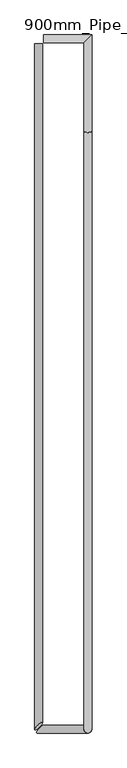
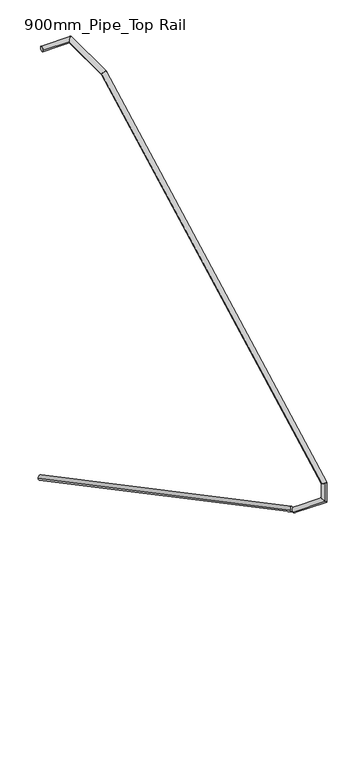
"""IFC4 building model written with IfcOpenShell, lengths in millimetres: railing geometry, 900mm_Pipe_Top Rail."""

import ifcopenshell
import ifcopenshell.guid

model = None  # the IFC model being written
_history = None  # IfcOwnerHistory: only IFC2X3 demands one
_inside = {}  # id of a spatial element -> (the spatial element, [elements in it])
_under = {}  # id of a project, library or spatial element -> (it, [spatial elements below it])
_declared = {}  # id of a project -> (the project, [libraries it declares])
_typed = {}  # id of a type object -> (the type object, [elements of that type])
_made_of = {}  # id of a material, layer set ... -> (it, [elements and type objects made of it])


def new_model(schema):
    """Start an empty IFC model of exactly this schema.

    Asked for "IFC4X3", IfcOpenShell would pick the latest addendum, in which some entities
    have other attributes; the version numbers below select the first issue.
    IFC2X3 requires an IfcOwnerHistory on every rooted entity: one is made here for all.
    """
    global model, _history
    if schema == "IFC4X3":
        model = ifcopenshell.file(schema_version=(4, 3, 0, 0))
    else:
        model = ifcopenshell.file(schema=schema)
    _inside.clear()
    _under.clear()
    _declared.clear()
    _typed.clear()
    _made_of.clear()
    _history = None
    if model.schema == "IFC2X3":
        org = make("IfcOrganization", Name="unknown")
        user = make(
            "IfcPersonAndOrganization",
            ThePerson=make("IfcPerson", FamilyName="unknown"),
            TheOrganization=org,
        )
        app = make(
            "IfcApplication",
            ApplicationDeveloper=org,
            Version="unknown",
            ApplicationFullName="unknown",
            ApplicationIdentifier="unknown",
        )
        _history = make(
            "IfcOwnerHistory",
            OwningUser=user,
            OwningApplication=app,
            ChangeAction="ADDED",
            CreationDate=0,
        )
    return model


def make(cls, **values):
    """One entity of the class cls with the attributes given. An attribute that is None is left unset."""
    return model.create_entity(
        cls, **{name: value for name, value in values.items() if value is not None}
    )


def rooted(cls, **values):
    """An entity with a GlobalId (a new one), such as an element, a storey or a relation."""
    return make(cls, GlobalId=ifcopenshell.guid.new(), OwnerHistory=_history, **values)


def si_unit(unit_type, name, prefix=None):
    """IfcSIUnit, for example si_unit("LENGTHUNIT", "METRE", prefix="MILLI")."""
    return make("IfcSIUnit", UnitType=unit_type, Prefix=prefix, Name=name)


def assignment(units):
    """IfcUnitAssignment: the units of a project."""
    return None if units is None else make("IfcUnitAssignment", Units=units)


def point(xyz):
    """IfcCartesianPoint."""
    return None if xyz is None else make("IfcCartesianPoint", Coordinates=xyz)


def direction(xyz):
    """IfcDirection."""
    return None if xyz is None else make("IfcDirection", DirectionRatios=xyz)


def frame(location, z_axis=None, x_axis=None):
    """IfcAxis2Placement3D, a coordinate frame: its origin and axes. An axis left out is left unset."""
    return make(
        "IfcAxis2Placement3D",
        Location=point(location),
        Axis=direction(z_axis),
        RefDirection=direction(x_axis),
    )


def origin():
    """The frame at (0, 0, 0) with its axes left unset."""
    return frame((0.0, 0.0, 0.0))


def place(relative_to, where):
    """IfcLocalPlacement: puts the frame where relative to a parent placement (None: the world)."""
    return make(
        "IfcLocalPlacement", PlacementRelTo=relative_to, RelativePlacement=where
    )


def context(
    kind, dimensions, precision=None, world=None, true_north=None, identifier=None
):
    """IfcGeometricRepresentationContext, for example the 3D "Model" context."""
    return make(
        "IfcGeometricRepresentationContext",
        ContextIdentifier=identifier,
        ContextType=kind,
        CoordinateSpaceDimension=dimensions,
        Precision=precision,
        WorldCoordinateSystem=world,
        TrueNorth=true_north,
    )


def project(units=None, contexts=None):
    """IfcProject with its units and contexts."""
    return rooted(
        "IfcProject",
        Name="project",
        RepresentationContexts=contexts,
        UnitsInContext=assignment(units),
    )


def spatial(cls, under=None, at=None, **own):
    """A site, building, storey or space (cls), placed at a placement, below another one or the project."""
    s = rooted(cls, ObjectPlacement=at, **own)
    if under is not None:
        _under.setdefault(under.id(), (under, []))[1].append(s)
    return s


def circle_curve(where, radius):
    """IfcCircle in the frame where."""
    return make("IfcCircle", Position=where, Radius=radius)


def ellipse_curve(where, semi_axis1, semi_axis2):
    """IfcEllipse in the frame where."""
    return make(
        "IfcEllipse", Position=where, SemiAxis1=semi_axis1, SemiAxis2=semi_axis2
    )


def shape(context_of_items, identifier, shape_type, items):
    """IfcShapeRepresentation: the items that make up one representation, for example the "Body"."""
    return make(
        "IfcShapeRepresentation",
        ContextOfItems=context_of_items,
        RepresentationIdentifier=identifier,
        RepresentationType=shape_type,
        Items=items,
    )


def source(mapping_origin, context_of_items, identifier, shape_type, items):
    """IfcRepresentationMap: a shape defined once, which mapped items show again and again."""
    return make(
        "IfcRepresentationMap",
        MappingOrigin=mapping_origin,
        MappedRepresentation=shape(context_of_items, identifier, shape_type, items),
    )


def transform(
    local_origin,
    x_axis=None,
    y_axis=None,
    z_axis=None,
    scale=None,
    scale2=None,
    scale3=None,
    uniform=True,
):
    """IfcCartesianTransformationOperator3D, or its non-uniform kind. x_axis, y_axis, z_axis: its Axis1, 2, 3."""
    if uniform:
        return make(
            "IfcCartesianTransformationOperator3D",
            Axis1=direction(x_axis),
            Axis2=direction(y_axis),
            LocalOrigin=point(local_origin),
            Scale=scale,
            Axis3=direction(z_axis),
        )
    return make(
        "IfcCartesianTransformationOperator3DnonUniform",
        Axis1=direction(x_axis),
        Axis2=direction(y_axis),
        LocalOrigin=point(local_origin),
        Scale=scale,
        Axis3=direction(z_axis),
        Scale2=scale2,
        Scale3=scale3,
    )


def mapped(mapping_source, mapping_target):
    """IfcMappedItem: shows the shape of a source again, moved by a transform."""
    return make(
        "IfcMappedItem", MappingSource=mapping_source, MappingTarget=mapping_target
    )


def made_of(thing, what):
    """Note that an element or type object is made of a material, layer set ...; save() writes the relation."""
    if what is not None:
        _made_of.setdefault(what.id(), (what, []))[1].append(thing)
    return thing


def element(
    cls,
    number,
    at=None,
    inside=None,
    cuts=None,
    type_object=None,
    material=None,
    context=None,
    identifier="Body",
    shape_type=None,
    held_by="IfcProductDefinitionShape",
    body=None,
    shapes=None,
    **own,
):
    """One element of the class cls, such as IfcWall. Its Tag is "e" and its number.

    at: its placement. inside: the storey or other place that contains it. cuts: it is an
    opening in that element (IfcRelVoidsElement). A single representation is given by context,
    identifier, shape_type and body (its items); several are given by shapes. held_by: the class
    of the entity that holds the representations. save() writes the other relations.
    """
    e = rooted(cls, Tag="e%d" % number, ObjectPlacement=at, **own)
    if body is not None:
        shapes = [shape(context, identifier, shape_type, body)]
    if shapes is not None:
        e.Representation = make(held_by, Representations=shapes)
    if inside is not None:
        _inside.setdefault(inside.id(), (inside, []))[1].append(e)
    if cuts is not None:
        rooted(
            "IfcRelVoidsElement", RelatingBuildingElement=cuts, RelatedOpeningElement=e
        )
    if type_object is not None:
        _typed.setdefault(type_object.id(), (type_object, []))[1].append(e)
    return made_of(e, material)


def aggregate(whole, parts):
    """IfcRelAggregates: a whole, such as a stair, and the parts it consists of."""
    return rooted("IfcRelAggregates", RelatingObject=whole, RelatedObjects=parts)


def save(model, path):
    """Write the relations noted so far, then the file.

    IfcRelAggregates (storeys below a building ...), IfcRelContainedInSpatialStructure (elements
    in a storey), IfcRelDefinesByType, IfcRelAssociatesMaterial and IfcRelDeclares: one each for
    every whole, place, type object, material and project.
    """
    for whole, parts in _under.values():
        aggregate(whole, parts)
    for where, things in _inside.values():
        rooted(
            "IfcRelContainedInSpatialStructure",
            RelatedElements=things,
            RelatingStructure=where,
        )
    for kind, things in _typed.values():
        rooted("IfcRelDefinesByType", RelatedObjects=things, RelatingType=kind)
    for what, things in _made_of.values():
        rooted("IfcRelAssociatesMaterial", RelatedObjects=things, RelatingMaterial=what)
    for by, libraries in _declared.values():
        rooted("IfcRelDeclares", RelatingContext=by, RelatedDefinitions=libraries)
    model.write(path)


def plane_surface(at):
    """IfcPlane: the flat surface through the origin of the frame at, square to its z axis."""
    return make("IfcPlane", Position=at)


def cylinder_surface(at, radius):
    """IfcCylindricalSurface: all points at the distance radius from the z axis of the frame at."""
    return make("IfcCylindricalSurface", Position=at, Radius=radius)


def advanced_brep(points, edges, surfaces, faces):
    """IfcAdvancedBrep: a solid bounded by faces that lie on surfaces and meet in shared edges.

    An edge is (start, end): straight between two places in points (the first is 0);
    or (start, end, curve); or (start, end, curve, False) where it runs against its curve.
    A face is (place in surfaces, loops), or (place, loops, False) where it looks against
    its surface's normal. A loop lists edges by number (the first is 1), with a minus sign
    where the edge is run from its end to its start. The first loop is the outer one.
    """
    corners = [point(p) for p in points]
    vertices = [make("IfcVertexPoint", VertexGeometry=c) for c in corners]
    made = []
    for start, end, *more in edges:
        made.append(
            make(
                "IfcEdgeCurve",
                EdgeStart=vertices[start],
                EdgeEnd=vertices[end],
                EdgeGeometry=more[0] if more else make("IfcPolyline", Points=[corners[start], corners[end]]),
                SameSense=more[1] if len(more) > 1 else True,
            )
        )
    hull = []
    for where, loops, *sense in faces:
        bounds = []
        for j, loop in enumerate(loops):
            ring = [make("IfcOrientedEdge", EdgeElement=made[abs(k) - 1], Orientation=k > 0) for k in loop]
            bounds.append(
                make(
                    "IfcFaceOuterBound" if j == 0 else "IfcFaceBound",
                    Bound=make("IfcEdgeLoop", EdgeList=ring),
                    Orientation=True,
                )
            )
        hull.append(make("IfcAdvancedFace", Bounds=bounds, FaceSurface=surfaces[where], SameSense=sense[0] if sense else True))
    return make("IfcAdvancedBrep", Outer=make("IfcClosedShell", CfsFaces=hull))


def railing_900mm_pipe_top_rail_f8b790fc(model_context):
    return source(origin(), model_context, "Body", "AdvancedBrep", [
        advanced_brep(
        [(-12235.3216429, 12414.8960687, 2906.7976593), (-12195.3216429, 12414.8960687, 2906.7976593), (-12235.3216429, 8937.8618282, 4747.9700762), (-12195.3216429, 8973.2117069, 4729.2514737)],
        [
            (0, 1, ellipse_curve(frame((-12215.3216429, 12414.8960687, 2906.7976593), z_axis=(0.0, 1.0, 0.0), x_axis=(0.0, 0.0, -0.9999999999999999)), 22.6309122, 20.0)),
            (1, 0, ellipse_curve(frame((-12215.3216429, 12414.8960687, 2906.7976593), z_axis=(0.0, 1.0, 0.0), x_axis=(0.0, 0.0, -0.9999999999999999)), 22.6309122, 20.0)),
            (2, 3, ellipse_curve(frame((-12215.3216429, 8955.5367675, 4738.6107749), z_axis=(0.7071067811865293, -0.6249034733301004, 0.3309012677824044), x_axis=(0.707106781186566, 0.6249034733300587, -0.3309012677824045)), 28.2842712, 20.0)),
            (3, 2, ellipse_curve(frame((-12215.3216429, 8955.5367675, 4738.6107749), z_axis=(0.7071067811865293, -0.6249034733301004, 0.3309012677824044), x_axis=(0.707106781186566, 0.6249034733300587, -0.3309012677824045)), 28.2842712, 20.0)),
            (0, 2),
            (3, 1),
        ],
        [
            plane_surface(frame((-12215.3216429, 12414.8960687, 2929.4285714), z_axis=(0.0, 1.0, 0.0), x_axis=(0.0, 0.0, -1.0))),
            plane_surface(frame((-12215.3216429, 8964.8960687, 4756.2857143), z_axis=(0.7071067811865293, -0.6249034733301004, 0.3309012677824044), x_axis=(0.707106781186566, 0.624903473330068, -0.33090126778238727))),
            cylinder_surface(frame((-12215.3216429, 12405.5367675, 2911.7536321), z_axis=(0.0, 0.8837469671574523, -0.4679650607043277), x_axis=(1.0, 0.0, 0.0)), 20.0),
        ],
        [
            (0, [[1, 2]]),
            (1, [[3, 4]]),
            (2, [[-1, 5, -4, 6]]),
            (2, [[-2, -6, -3, -5]]),
        ],
    ),
        advanced_brep(
        [(-12223.6372811, 8919.882711, 4736.2857143), (-12188.2874024, 8959.882711, 4736.2857143), (-11965.2146087, 8919.882711, 4736.2857143), (-11965.2146087, 8959.882711, 4736.2857143)],
        [
            (0, 1, ellipse_curve(frame((-12205.9623417, 8939.882711, 4736.2857143), z_axis=(-0.7071067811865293, 0.6249034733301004, -0.3309012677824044), x_axis=(-0.7071067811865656, -0.6249034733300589, 0.33090126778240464)), 28.2842712, 20.0)),
            (1, 0, ellipse_curve(frame((-12205.9623417, 8939.882711, 4736.2857143), z_axis=(-0.7071067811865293, 0.6249034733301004, -0.3309012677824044), x_axis=(-0.7071067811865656, -0.6249034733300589, 0.33090126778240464)), 28.2842712, 20.0)),
            (2, 3, ellipse_curve(frame((-11965.2146087, 8939.882711, 4736.2857143), z_axis=(0.7071067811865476, 0.0, 0.7071067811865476), x_axis=(-0.7071067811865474, 0.0, 0.7071067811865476)), 28.2842712, 20.0)),
            (3, 2, ellipse_curve(frame((-11965.2146087, 8939.882711, 4736.2857143), z_axis=(0.7071067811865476, 0.0, 0.7071067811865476), x_axis=(-0.7071067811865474, 0.0, 0.7071067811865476)), 28.2842712, 20.0)),
            (0, 2),
            (3, 1),
        ],
        [
            plane_surface(frame((-12215.3216429, 8939.882711, 4756.2857143), z_axis=(-0.7071067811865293, 0.6249034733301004, -0.3309012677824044), x_axis=(0.707106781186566, 0.624903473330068, -0.33090126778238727))),
            plane_surface(frame((-11985.2146087, 8939.882711, 4756.2857143), z_axis=(0.7071067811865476, 0.0, 0.7071067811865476), x_axis=(0.7071067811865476, 0.0, -0.7071067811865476))),
            cylinder_surface(frame((-12215.3216429, 8939.882711, 4736.2857143), z_axis=(-1.0, 0.0, 0.0), x_axis=(0.0, 1.0, 0.0)), 20.0),
        ],
        [
            (0, [[1, 2]]),
            (1, [[3, 4]]),
            (2, [[-1, 5, -4, 6]]),
            (2, [[-2, -6, -3, -5]]),
        ],
    ),
        advanced_brep(
        [(-11965.2146087, 8919.882711, 4736.2857143), (-11965.2146087, 8959.882711, 4736.2857143), (-11965.2146087, 8919.882711, 4891.3072125), (-11965.2146087, 8959.882711, 4867.2263405)],
        [
            (0, 1, ellipse_curve(frame((-11965.2146087, 8939.882711, 4736.2857143), z_axis=(-0.7071067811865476, 0.0, -0.7071067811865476), x_axis=(0.7071067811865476, 0.0, -0.7071067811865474)), 28.2842712, 20.0)),
            (1, 0, ellipse_curve(frame((-11965.2146087, 8939.882711, 4736.2857143), z_axis=(-0.7071067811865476, 0.0, -0.7071067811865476), x_axis=(0.7071067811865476, 0.0, -0.7071067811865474)), 28.2842712, 20.0)),
            (2, 3, ellipse_curve(frame((-11965.2146087, 8939.882711, 4879.2667765), z_axis=(0.0, 0.5157688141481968, 0.8567278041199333), x_axis=(0.0, 0.8567278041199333, -0.5157688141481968)), 23.3446375, 20.0)),
            (3, 2, ellipse_curve(frame((-11965.2146087, 8939.882711, 4879.2667765), z_axis=(0.0, 0.5157688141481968, 0.8567278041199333), x_axis=(0.0, 0.8567278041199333, -0.5157688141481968)), 23.3446375, 20.0)),
            (0, 2),
            (3, 1),
        ],
        [
            plane_surface(frame((-11965.2146087, 8939.882711, 4736.2857143), z_axis=(-0.7071067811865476, 0.0, -0.7071067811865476), x_axis=(0.7071067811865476, 0.0, -0.7071067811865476))),
            plane_surface(frame((-11965.2146087, 8939.882711, 4879.2667765), z_axis=(0.0, 0.5157688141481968, 0.8567278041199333), x_axis=(1.0, 0.0, 0.0))),
            cylinder_surface(frame((-11965.2146087, 8939.882711, 4736.2857143), z_axis=(0.0, 0.0, -1.0), x_axis=(0.0, 1.0, 0.0)), 20.0),
        ],
        [
            (0, [[1, 2]]),
            (1, [[3, 4]]),
            (2, [[-1, 5, -4, 6]]),
            (2, [[-2, -6, -3, -5]]),
        ],
    ),
        advanced_brep(
        [(-11945.2146087, 8939.882711, 4879.2667765), (-11985.2146087, 8939.882711, 4879.2667765), (-11945.2146087, 11969.864518, 6483.7142857), (-11985.2146087, 11969.864518, 6483.7142857), (-11945.2146087, 12459.8960687, 6483.7142857), (-11985.2146087, 12419.8960687, 6483.7142857), (-12190.3216429, 12459.8960687, 6483.7142857), (-12190.3216429, 12419.8960687, 6483.7142857)],
        [
            (0, 1, ellipse_curve(frame((-11965.2146087, 8939.882711, 4879.2667765), z_axis=(0.0, -0.5157688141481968, -0.8567278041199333), x_axis=(0.0, -0.8567278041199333, 0.5157688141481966)), 23.3446375, 20.0)),
            (1, 0, ellipse_curve(frame((-11965.2146087, 8939.882711, 4879.2667765), z_axis=(0.0, -0.5157688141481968, -0.8567278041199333), x_axis=(0.0, -0.8567278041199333, 0.5157688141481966)), 23.3446375, 20.0)),
            (0, 2),
            (2, 3, ellipse_curve(frame((-11965.2146087, 11969.864518, 6483.7142857), z_axis=(0.0, -0.9705016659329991, -0.241094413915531), x_axis=(0.0, 0.24109441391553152, -0.970501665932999)), 20.6078987, 20.0)),
            (3, 1),
            (3, 2, ellipse_curve(frame((-11965.2146087, 11969.864518, 6483.7142857), z_axis=(0.0, -0.9705016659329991, -0.241094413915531), x_axis=(0.0, 0.24109441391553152, -0.970501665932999)), 20.6078987, 20.0)),
            (2, 4),
            (4, 5, ellipse_curve(frame((-11965.2146087, 12439.8960687, 6483.7142857), z_axis=(0.7071067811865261, -0.7071067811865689, 0.0), x_axis=(-0.7071067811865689, -0.7071067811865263, 0.0)), 28.2842712, 20.0)),
            (5, 3),
            (5, 4, ellipse_curve(frame((-11965.2146087, 12439.8960687, 6483.7142857), z_axis=(0.7071067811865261, -0.7071067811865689, 0.0), x_axis=(-0.7071067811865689, -0.7071067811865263, 0.0)), 28.2842712, 20.0)),
            (6, 7, circle_curve(frame((-12190.3216429, 12439.8960687, 6483.7142857), z_axis=(-1.0, 0.0, 0.0), x_axis=(0.0, -1.0, 0.0)), 20.0)),
            (7, 6, circle_curve(frame((-12190.3216429, 12439.8960687, 6483.7142857), z_axis=(-1.0, 0.0, 0.0), x_axis=(0.0, -1.0, 0.0)), 20.0)),
            (4, 6),
            (7, 5),
        ],
        [
            plane_surface(frame((-11965.2146087, 8919.882711, 4891.3072125), z_axis=(0.0, -0.5157688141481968, -0.8567278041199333), x_axis=(1.0, 0.0, 0.0))),
            cylinder_surface(frame((-11965.2146087, 8929.2420122, 4873.6322731), z_axis=(0.0, -0.8837469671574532, -0.4679650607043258), x_axis=(-1.0, 0.0, 0.0)), 20.0),
            cylinder_surface(frame((-11965.2146087, 11964.8960687, 6483.7142857), z_axis=(0.0, -1.0, 0.0), x_axis=(-1.0, 0.0, 0.0)), 20.0),
            plane_surface(frame((-12190.3216429, 12439.8960687, 6503.7142857), z_axis=(-1.0, 0.0, 0.0), x_axis=(0.0, -1.0, 0.0))),
            cylinder_surface(frame((-11965.2146087, 12439.8960687, 6483.7142857), z_axis=(1.0, 0.0, 0.0), x_axis=(0.0, -1.0, 0.0)), 20.0),
        ],
        [
            (0, [[1, 2]]),
            (1, [[-1, 3, 4, 5]]),
            (1, [[-2, -5, 6, -3]]),
            (2, [[-4, 7, 8, 9]]),
            (2, [[-6, -9, 10, -7]]),
            (3, [[11, 12]]),
            (4, [[-8, 13, -12, 14]]),
            (4, [[-10, -14, -11, -13]]),
        ],
    ),
    ])


if __name__ == "__main__":
    model = new_model("IFC4")
    model_context = context("Model", 3, world=origin())
    ifc_project = project(units=[si_unit("LENGTHUNIT", "METRE", prefix="MILLI")], contexts=[model_context])
    site = spatial("IfcSite", under=ifc_project)
    building = spatial("IfcBuilding", under=site)
    placement = place(None, origin())
    railing_900mm_pipe_top_rail_shape = railing_900mm_pipe_top_rail_f8b790fc(model_context)
    element("IfcRailing", 1, ObjectType="900mm_Pipe_Top Rail", at=placement, inside=building, context=model_context, shape_type="MappedRepresentation", body=[
        mapped(railing_900mm_pipe_top_rail_shape, transform((0.0, 0.0, 0.0), x_axis=(1.0, 0.0, 0.0), y_axis=(0.0, 1.0, 0.0), z_axis=(0.0, 0.0, 1.0))),
    ])
    save(model, "model.ifc")
